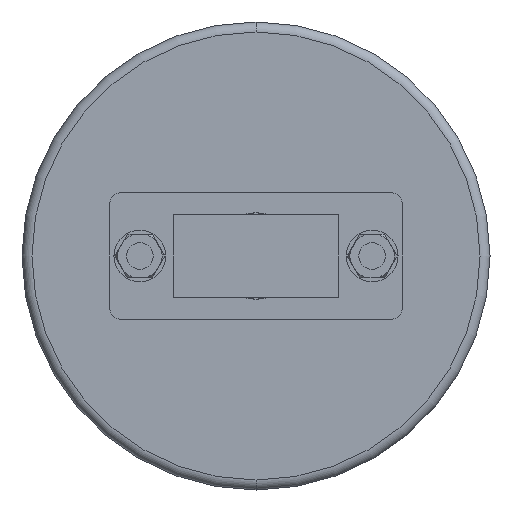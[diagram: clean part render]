
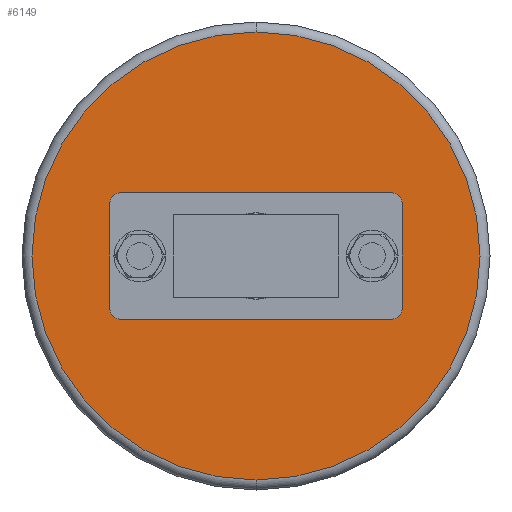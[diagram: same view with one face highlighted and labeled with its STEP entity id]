
A CAD part, front view. The second image highlights one B-rep face of the part: STEP entity #6149.
In plain terms, the highlighted planar face has unit normal (0, -1, 0).
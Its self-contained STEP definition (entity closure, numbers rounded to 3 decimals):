
#48 = VECTOR ( 'NONE', #1761, 1000. ) ;
#52 = CIRCLE ( 'NONE', #1057, 67.5 ) ;
#221 = EDGE_CURVE ( 'NONE', #4591, #483, #7420, .T. ) ;
#403 = CIRCLE ( 'NONE', #5899, 67.5 ) ;
#465 = AXIS2_PLACEMENT_3D ( 'NONE', #5163, #6287, #3888 ) ;
#483 = VERTEX_POINT ( 'NONE', #3830 ) ;
#531 = CARTESIAN_POINT ( 'NONE',  ( 35., 93., 0. ) ) ;
#534 = DIRECTION ( 'NONE',  ( 0., 0., 1. ) ) ;
#661 = DIRECTION ( 'NONE',  ( 0., 0., 1. ) ) ;
#735 = ORIENTED_EDGE ( 'NONE', *, *, #7078, .T. ) ;
#832 = DIRECTION ( 'NONE',  ( 0., -1., 0. ) ) ;
#936 = CARTESIAN_POINT ( 'NONE',  ( -35., 93., 0. ) ) ;
#963 = DIRECTION ( 'NONE',  ( 0., -1., 0. ) ) ;
#1044 = EDGE_LOOP ( 'NONE', ( #6271, #2765, #5177, #1482, #4116 ) ) ;
#1057 = AXIS2_PLACEMENT_3D ( 'NONE', #7512, #963, #7401 ) ;
#1064 = AXIS2_PLACEMENT_3D ( 'NONE', #6651, #1163, #7698 ) ;
#1156 = ORIENTED_EDGE ( 'NONE', *, *, #2940, .T. ) ;
#1160 = VERTEX_POINT ( 'NONE', #1996 ) ;
#1163 = DIRECTION ( 'NONE',  ( 0., 1., 0. ) ) ;
#1211 = EDGE_CURVE ( 'NONE', #6867, #1831, #4359, .T. ) ;
#1220 = CARTESIAN_POINT ( 'NONE',  ( -9., 93., -4.359 ) ) ;
#1363 = FACE_BOUND ( 'NONE', #7804, .T. ) ;
#1407 = FACE_OUTER_BOUND ( 'NONE', #7402, .T. ) ;
#1482 = ORIENTED_EDGE ( 'NONE', *, *, #5632, .T. ) ;
#1580 = DIRECTION ( 'NONE',  ( 0., 0., 1. ) ) ;
#1761 = DIRECTION ( 'NONE',  ( 0., 0., 1. ) ) ;
#1780 = DIRECTION ( 'NONE',  ( 0., -1., 0. ) ) ;
#1831 = VERTEX_POINT ( 'NONE', #4233 ) ;
#1878 = ORIENTED_EDGE ( 'NONE', *, *, #4969, .T. ) ;
#1890 = CIRCLE ( 'NONE', #7886, 6. ) ;
#1981 = EDGE_CURVE ( 'NONE', #1160, #2141, #4138, .T. ) ;
#1996 = CARTESIAN_POINT ( 'NONE',  ( 35., 93., -6. ) ) ;
#2056 = AXIS2_PLACEMENT_3D ( 'NONE', #7095, #832, #534 ) ;
#2131 = EDGE_CURVE ( 'NONE', #7608, #4591, #6438, .T. ) ;
#2141 = VERTEX_POINT ( 'NONE', #6517 ) ;
#2159 = DIRECTION ( 'NONE',  ( 0., -1., 0. ) ) ;
#2277 = CARTESIAN_POINT ( 'NONE',  ( 0., 93., 0. ) ) ;
#2359 = CARTESIAN_POINT ( 'NONE',  ( 9., 93., -70.5 ) ) ;
#2367 = CARTESIAN_POINT ( 'NONE',  ( 9., 93., 4.359 ) ) ;
#2373 = DIRECTION ( 'NONE',  ( 0., 1., 0. ) ) ;
#2765 = ORIENTED_EDGE ( 'NONE', *, *, #6839, .F. ) ;
#2830 = CARTESIAN_POINT ( 'NONE',  ( -35., 93., 0. ) ) ;
#2940 = EDGE_CURVE ( 'NONE', #2141, #1160, #3260, .T. ) ;
#2941 = VERTEX_POINT ( 'NONE', #5857 ) ;
#2984 = CARTESIAN_POINT ( 'NONE',  ( -9., 93., -70.5 ) ) ;
#2998 = AXIS2_PLACEMENT_3D ( 'NONE', #2277, #5206, #5841 ) ;
#3260 = CIRCLE ( 'NONE', #5687, 6. ) ;
#3427 = DIRECTION ( 'NONE',  ( 0., 0., 1. ) ) ;
#3545 = DIRECTION ( 'NONE',  ( 0., 0., 1. ) ) ;
#3587 = CARTESIAN_POINT ( 'NONE',  ( 0., 93., 10. ) ) ;
#3634 = LINE ( 'NONE', #2984, #6613 ) ;
#3830 = CARTESIAN_POINT ( 'NONE',  ( -9., 93., 4.359 ) ) ;
#3849 = PLANE ( 'NONE',  #465 ) ;
#3888 = DIRECTION ( 'NONE',  ( 0., 0., 1. ) ) ;
#3967 = AXIS2_PLACEMENT_3D ( 'NONE', #5238, #2159, #4634 ) ;
#4081 = CARTESIAN_POINT ( 'NONE',  ( -35., 93., 6. ) ) ;
#4105 = EDGE_CURVE ( 'NONE', #4248, #4331, #5146, .T. ) ;
#4116 = ORIENTED_EDGE ( 'NONE', *, *, #221, .F. ) ;
#4122 = EDGE_CURVE ( 'NONE', #2941, #4513, #403, .T. ) ;
#4138 = CIRCLE ( 'NONE', #1064, 6. ) ;
#4233 = CARTESIAN_POINT ( 'NONE',  ( -35., 93., -6. ) ) ;
#4248 = VERTEX_POINT ( 'NONE', #1220 ) ;
#4331 = VERTEX_POINT ( 'NONE', #7809 ) ;
#4359 = CIRCLE ( 'NONE', #4732, 6. ) ;
#4412 = ORIENTED_EDGE ( 'NONE', *, *, #4122, .T. ) ;
#4513 = VERTEX_POINT ( 'NONE', #5981 ) ;
#4591 = VERTEX_POINT ( 'NONE', #3587 ) ;
#4594 = DIRECTION ( 'NONE',  ( 0., 1., 0. ) ) ;
#4634 = DIRECTION ( 'NONE',  ( 0., 0., 1. ) ) ;
#4732 = AXIS2_PLACEMENT_3D ( 'NONE', #936, #7742, #1580 ) ;
#4818 = DIRECTION ( 'NONE',  ( 0., 0., 1. ) ) ;
#4969 = EDGE_CURVE ( 'NONE', #1831, #6867, #1890, .T. ) ;
#5146 = CIRCLE ( 'NONE', #2056, 10. ) ;
#5163 = CARTESIAN_POINT ( 'NONE',  ( 0., 93., 0. ) ) ;
#5177 = ORIENTED_EDGE ( 'NONE', *, *, #4105, .F. ) ;
#5206 = DIRECTION ( 'NONE',  ( 0., -1., 0. ) ) ;
#5238 = CARTESIAN_POINT ( 'NONE',  ( 0., 93., 0. ) ) ;
#5312 = EDGE_LOOP ( 'NONE', ( #1878, #6976 ) ) ;
#5632 = EDGE_CURVE ( 'NONE', #4248, #483, #3634, .T. ) ;
#5687 = AXIS2_PLACEMENT_3D ( 'NONE', #531, #2373, #4818 ) ;
#5841 = DIRECTION ( 'NONE',  ( 0., 0., 1. ) ) ;
#5857 = CARTESIAN_POINT ( 'NONE',  ( 0., 93., -67.5 ) ) ;
#5899 = AXIS2_PLACEMENT_3D ( 'NONE', #7781, #1780, #3545 ) ;
#5981 = CARTESIAN_POINT ( 'NONE',  ( 0., 93., 67.5 ) ) ;
#6149 = ADVANCED_FACE ( 'NONE', ( #6886, #1407, #1363, #7598 ), #3849, .F. ) ;
#6271 = ORIENTED_EDGE ( 'NONE', *, *, #2131, .F. ) ;
#6287 = DIRECTION ( 'NONE',  ( 0., 1., 0. ) ) ;
#6438 = CIRCLE ( 'NONE', #2998, 10. ) ;
#6517 = CARTESIAN_POINT ( 'NONE',  ( 35., 93., 6. ) ) ;
#6603 = LINE ( 'NONE', #2359, #48 ) ;
#6613 = VECTOR ( 'NONE', #661, 1000. ) ;
#6651 = CARTESIAN_POINT ( 'NONE',  ( 35., 93., 0. ) ) ;
#6839 = EDGE_CURVE ( 'NONE', #4331, #7608, #6603, .T. ) ;
#6867 = VERTEX_POINT ( 'NONE', #4081 ) ;
#6886 = FACE_BOUND ( 'NONE', #1044, .T. ) ;
#6976 = ORIENTED_EDGE ( 'NONE', *, *, #1211, .T. ) ;
#7078 = EDGE_CURVE ( 'NONE', #4513, #2941, #52, .T. ) ;
#7095 = CARTESIAN_POINT ( 'NONE',  ( 0., 93., 0. ) ) ;
#7401 = DIRECTION ( 'NONE',  ( 0., 0., 1. ) ) ;
#7402 = EDGE_LOOP ( 'NONE', ( #735, #4412 ) ) ;
#7420 = CIRCLE ( 'NONE', #3967, 10. ) ;
#7512 = CARTESIAN_POINT ( 'NONE',  ( 0., 93., 0. ) ) ;
#7598 = FACE_BOUND ( 'NONE', #5312, .T. ) ;
#7608 = VERTEX_POINT ( 'NONE', #2367 ) ;
#7674 = ORIENTED_EDGE ( 'NONE', *, *, #1981, .T. ) ;
#7698 = DIRECTION ( 'NONE',  ( 0., 0., 1. ) ) ;
#7742 = DIRECTION ( 'NONE',  ( 0., 1., 0. ) ) ;
#7781 = CARTESIAN_POINT ( 'NONE',  ( 0., 93., 0. ) ) ;
#7804 = EDGE_LOOP ( 'NONE', ( #7674, #1156 ) ) ;
#7809 = CARTESIAN_POINT ( 'NONE',  ( 9., 93., -4.359 ) ) ;
#7886 = AXIS2_PLACEMENT_3D ( 'NONE', #2830, #4594, #3427 ) ;
